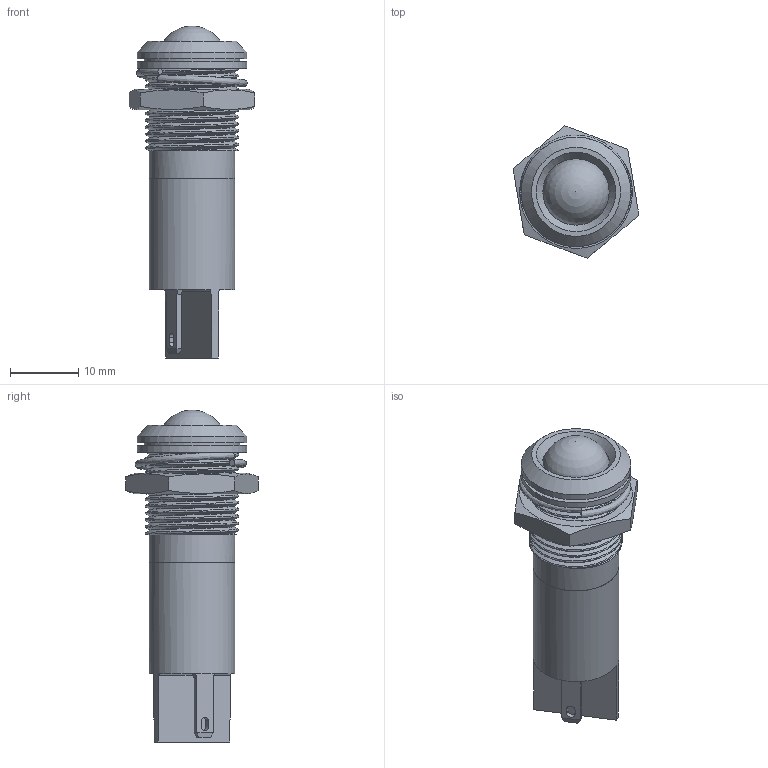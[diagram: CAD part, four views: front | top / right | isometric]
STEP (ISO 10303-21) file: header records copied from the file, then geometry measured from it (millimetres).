
FILE_DESCRIPTION( ( 'Unknown' ), '1' );
FILE_NAME( 'D:/My Documents/Q series 3D files/Q14P1CXXR.stp', 'Unknown', ( 'Unknown' ), ( 'Unknown' ), 'PSStep 15.0.49', 'Unknown', ' ' );
FILE_SCHEMA( ( 'AUTOMOTIVE_DESIGN { 1 0 10303 214 1 1 1 1 }' ) );
Length unit declared in the file: millimetre
Products named in the file (9): Assem1; 34-0075; 14-0155-1; 10mmLED; 12-0016; 12-0016-oa0; 21-0027; 13-0037; 26-0049
Assembly tree (8 placements, depth 2):
  Assem1
    34-0075
    14-0155-1
    10mmLED
    12-0016
    12-0016-oa0
    21-0027
    13-0037
    26-0049
Bounding box: 18.39 x 19.36 x 48.5 mm (x, y, z)
Volume: 4131.4 mm3; surface area: 5906.6 mm2
Topology: 8 solids, 8 shells, 258 faces, 673 edges, 439 vertices
Faces by surface type: plane 175, cylinder 60, cone 12, bspline 7, sphere 2, torus 2
Full cylindrical faces by diameter (mm): 8.8 x1, 9.7 x1, 10 x1, 10.1 x1, 11 x1, 11.4 x1, 11.5 x1, 12.5 x13, 13.8 x1, 14 x1, 16 x2
Entity records: 20886 total; most frequent: CARTESIAN_POINT 12949, ORIENTED_EDGE 1186, DIRECTION 1183, EDGE_CURVE 593, LINE 413, VECTOR 413, VERTEX_POINT 399, AXIS2_PLACEMENT_3D 385
